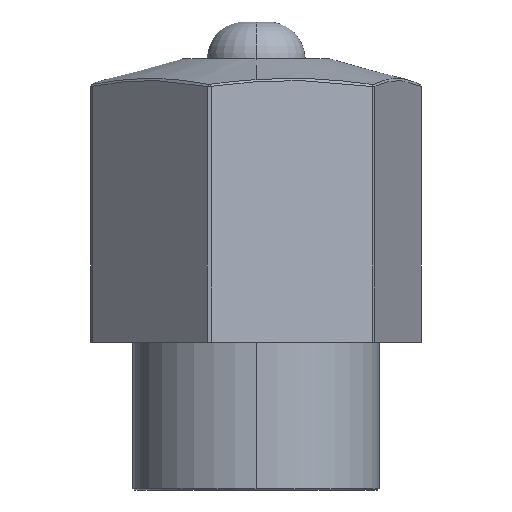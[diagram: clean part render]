
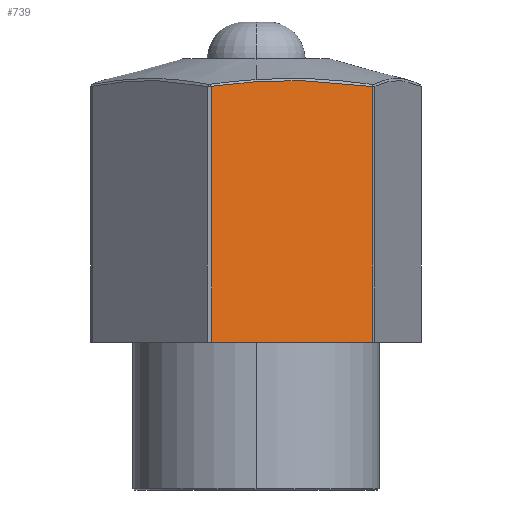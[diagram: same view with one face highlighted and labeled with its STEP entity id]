
A CAD part, left-side view. The second image highlights one B-rep face of the part: STEP entity #739.
In plain terms, the highlighted planar face has unit normal (-0.971, -0.238, 0).
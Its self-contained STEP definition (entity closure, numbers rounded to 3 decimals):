
#29 = ORIENTED_EDGE ( 'NONE', *, *, #1357, .T. ) ;
#35 = CARTESIAN_POINT ( 'NONE',  ( -12.121, -0.952, 33.208 ) ) ;
#46 = CARTESIAN_POINT ( 'NONE',  ( -12.272, -0.336, 33.176 ) ) ;
#49 = CARTESIAN_POINT ( 'NONE',  ( -13.238, 3.61, 32.785 ) ) ;
#58 = CARTESIAN_POINT ( 'NONE',  ( -12.322, -0.132, 33.164 ) ) ;
#70 = CARTESIAN_POINT ( 'NONE',  ( -12.473, 0.483, 33.12 ) ) ;
#110 = CARTESIAN_POINT ( 'NONE',  ( -12.806, 1.844, 32.997 ) ) ;
#123 = CARTESIAN_POINT ( 'NONE',  ( -12.573, 0.891, 33.087 ) ) ;
#224 = EDGE_CURVE ( 'NONE', #396, #1177, #1421, .T. ) ;
#230 = CARTESIAN_POINT ( 'NONE',  ( -11.87, -1.978, 33.242 ) ) ;
#256 = CARTESIAN_POINT ( 'NONE',  ( -12.172, -0.746, 33.198 ) ) ;
#361 = CARTESIAN_POINT ( 'NONE',  ( -10.032, -9.486, 12. ) ) ;
#367 = LINE ( 'NONE', #750, #1483 ) ;
#390 = CARTESIAN_POINT ( 'NONE',  ( -10.165, -8.941, 32.834 ) ) ;
#396 = VERTEX_POINT ( 'NONE', #692 ) ;
#399 = ORIENTED_EDGE ( 'NONE', *, *, #224, .T. ) ;
#402 = CARTESIAN_POINT ( 'NONE',  ( -11.803, -2.251, 33.247 ) ) ;
#413 = CARTESIAN_POINT ( 'NONE',  ( -11.668, -2.802, 33.251 ) ) ;
#427 = CARTESIAN_POINT ( 'NONE',  ( -10.198, -8.806, 32.852 ) ) ;
#429 = DIRECTION ( 'NONE',  ( -0.238, 0.971, 0. ) ) ;
#437 = CARTESIAN_POINT ( 'NONE',  ( -11.568, -3.213, 33.25 ) ) ;
#483 = DIRECTION ( 'NONE',  ( 0., 0., -1. ) ) ;
#559 = DIRECTION ( 'NONE',  ( 0., 0., 1. ) ) ;
#572 = CARTESIAN_POINT ( 'NONE',  ( -10.066, -9.349, 32.781 ) ) ;
#586 = CARTESIAN_POINT ( 'NONE',  ( -11.366, -4.038, 33.235 ) ) ;
#597 = CARTESIAN_POINT ( 'NONE',  ( -10.997, -5.543, 33.166 ) ) ;
#610 = CARTESIAN_POINT ( 'NONE',  ( -11.904, -1.842, 33.239 ) ) ;
#692 = CARTESIAN_POINT ( 'NONE',  ( -13.238, 3.61, 12. ) ) ;
#733 = VERTEX_POINT ( 'NONE', #49 ) ;
#739 = ADVANCED_FACE ( 'NONE', ( #801 ), #1015, .F. ) ;
#750 = CARTESIAN_POINT ( 'NONE',  ( -10.032, -9.486, 35. ) ) ;
#774 = CARTESIAN_POINT ( 'NONE',  ( -10.032, -9.486, 32.762 ) ) ;
#790 = CARTESIAN_POINT ( 'NONE',  ( -10.414, -7.927, 32.956 ) ) ;
#801 = FACE_OUTER_BOUND ( 'NONE', #2088, .T. ) ;
#810 = CARTESIAN_POINT ( 'NONE',  ( -10.514, -7.515, 33.001 ) ) ;
#822 = CARTESIAN_POINT ( 'NONE',  ( -12.781, 1.742, 33.007 ) ) ;
#894 = B_SPLINE_CURVE_WITH_KNOTS ( 'NONE', 3,
 ( #774, #572, #2255, #390, #427, #2093, #1913, #1928, #953, #2105, #790, #2071, #810, #973, #1150, #1535, #1172, #1750, #1525, #1317, #2282, #1512, #1139, #1903, #597, #984, #1546, #1340, #2291, #1365, #586, #1329, #437, #413, #2082, #1184, #402, #230, #610, #1740, #1938, #1713, #35, #256, #1350, #1156, #46, #58, #2304, #2119, #996, #70, #1980, #123, #1794, #1229, #1197, #1949, #822, #110, #1579, #1808, #1607, #1991, #1038 ),
 .UNSPECIFIED., .F., .F.,
 ( 4, 1, 2, 2, 1, 2, 2, 1, 2, 2, 1, 2, 2, 2, 2, 2, 2, 2, 2, 2, 2, 2, 2, 1, 2, 2, 1, 2, 2, 1, 2, 2, 1, 1, 2, 2, 4 ),
 ( 0., 0.031, 0.047, 0.062, 0.094, 0.109, 0.125, 0.156, 0.172, 0.187, 0.219, 0.234, 0.25, 0.281, 0.312, 0.344, 0.375, 0.437, 0.5, 0.531, 0.563, 0.594, 0.625, 0.656, 0.672, 0.688, 0.719, 0.734, 0.75, 0.781, 0.797, 0.813, 0.844, 0.859, 0.867, 0.875, 1. ),
 .UNSPECIFIED. ) ;
#902 = CARTESIAN_POINT ( 'NONE',  ( -13.238, 3.61, 35. ) ) ;
#918 = EDGE_CURVE ( 'NONE', #1177, #992, #367, .T. ) ;
#953 = CARTESIAN_POINT ( 'NONE',  ( -10.365, -8.127, 32.934 ) ) ;
#973 = CARTESIAN_POINT ( 'NONE',  ( -10.564, -7.312, 33.021 ) ) ;
#984 = CARTESIAN_POINT ( 'NONE',  ( -11.065, -5.268, 33.182 ) ) ;
#992 = VERTEX_POINT ( 'NONE', #1744 ) ;
#996 = CARTESIAN_POINT ( 'NONE',  ( -12.423, 0.281, 33.135 ) ) ;
#1015 = PLANE ( 'NONE',  #2196 ) ;
#1038 = CARTESIAN_POINT ( 'NONE',  ( -13.238, 3.61, 32.785 ) ) ;
#1127 = VECTOR ( 'NONE', #483, 1000. ) ;
#1139 = CARTESIAN_POINT ( 'NONE',  ( -10.898, -5.95, 33.138 ) ) ;
#1150 = CARTESIAN_POINT ( 'NONE',  ( -10.597, -7.177, 33.034 ) ) ;
#1156 = CARTESIAN_POINT ( 'NONE',  ( -12.222, -0.539, 33.187 ) ) ;
#1172 = CARTESIAN_POINT ( 'NONE',  ( -10.664, -6.904, 33.06 ) ) ;
#1177 = VERTEX_POINT ( 'NONE', #361 ) ;
#1184 = CARTESIAN_POINT ( 'NONE',  ( -11.769, -2.39, 33.249 ) ) ;
#1197 = CARTESIAN_POINT ( 'NONE',  ( -12.673, 1.3, 33.051 ) ) ;
#1229 = CARTESIAN_POINT ( 'NONE',  ( -12.623, 1.099, 33.069 ) ) ;
#1317 = CARTESIAN_POINT ( 'NONE',  ( -10.797, -6.36, 33.107 ) ) ;
#1329 = CARTESIAN_POINT ( 'NONE',  ( -11.5, -3.488, 33.247 ) ) ;
#1340 = CARTESIAN_POINT ( 'NONE',  ( -11.165, -4.858, 33.203 ) ) ;
#1350 = CARTESIAN_POINT ( 'NONE',  ( -12.205, -0.609, 33.191 ) ) ;
#1352 = CARTESIAN_POINT ( 'NONE',  ( -13.303, 3.876, 35. ) ) ;
#1357 = EDGE_CURVE ( 'NONE', #992, #733, #894, .T. ) ;
#1365 = CARTESIAN_POINT ( 'NONE',  ( -11.299, -4.31, 33.226 ) ) ;
#1421 = LINE ( 'NONE', #1810, #1958 ) ;
#1483 = VECTOR ( 'NONE', #559, 1000. ) ;
#1512 = CARTESIAN_POINT ( 'NONE',  ( -10.864, -6.087, 33.128 ) ) ;
#1525 = CARTESIAN_POINT ( 'NONE',  ( -10.764, -6.495, 33.096 ) ) ;
#1535 = CARTESIAN_POINT ( 'NONE',  ( -10.613, -7.111, 33.041 ) ) ;
#1546 = CARTESIAN_POINT ( 'NONE',  ( -11.098, -5.131, 33.19 ) ) ;
#1579 = CARTESIAN_POINT ( 'NONE',  ( -12.823, 1.913, 32.99 ) ) ;
#1607 = CARTESIAN_POINT ( 'NONE',  ( -12.969, 2.509, 32.926 ) ) ;
#1713 = CARTESIAN_POINT ( 'NONE',  ( -12.071, -1.156, 33.217 ) ) ;
#1740 = CARTESIAN_POINT ( 'NONE',  ( -11.971, -1.567, 33.231 ) ) ;
#1744 = CARTESIAN_POINT ( 'NONE',  ( -10.032, -9.486, 32.762 ) ) ;
#1750 = CARTESIAN_POINT ( 'NONE',  ( -10.714, -6.699, 33.079 ) ) ;
#1770 = DIRECTION ( 'NONE',  ( 0.971, 0.238, 0. ) ) ;
#1794 = CARTESIAN_POINT ( 'NONE',  ( -12.606, 1.028, 33.075 ) ) ;
#1800 = ORIENTED_EDGE ( 'NONE', *, *, #918, .T. ) ;
#1808 = CARTESIAN_POINT ( 'NONE',  ( -12.832, 1.949, 32.986 ) ) ;
#1810 = CARTESIAN_POINT ( 'NONE',  ( -13.303, 3.876, 12. ) ) ;
#1827 = EDGE_CURVE ( 'NONE', #733, #396, #1849, .T. ) ;
#1849 = LINE ( 'NONE', #902, #1127 ) ;
#1903 = CARTESIAN_POINT ( 'NONE',  ( -10.964, -5.677, 33.157 ) ) ;
#1913 = CARTESIAN_POINT ( 'NONE',  ( -10.265, -8.535, 32.886 ) ) ;
#1928 = CARTESIAN_POINT ( 'NONE',  ( -10.315, -8.33, 32.91 ) ) ;
#1938 = CARTESIAN_POINT ( 'NONE',  ( -12.005, -1.428, 33.227 ) ) ;
#1949 = CARTESIAN_POINT ( 'NONE',  ( -12.722, 1.503, 33.032 ) ) ;
#1958 = VECTOR ( 'NONE', #2007, 1000. ) ;
#1980 = CARTESIAN_POINT ( 'NONE',  ( -12.522, 0.686, 33.105 ) ) ;
#1991 = CARTESIAN_POINT ( 'NONE',  ( -13.102, 3.052, 32.86 ) ) ;
#2007 = DIRECTION ( 'NONE',  ( 0.238, -0.971, 0. ) ) ;
#2071 = CARTESIAN_POINT ( 'NONE',  ( -10.464, -7.721, 32.979 ) ) ;
#2082 = CARTESIAN_POINT ( 'NONE',  ( -11.702, -2.665, 33.251 ) ) ;
#2088 = EDGE_LOOP ( 'NONE', ( #29, #2329, #399, #1800 ) ) ;
#2093 = CARTESIAN_POINT ( 'NONE',  ( -10.214, -8.741, 32.86 ) ) ;
#2105 = CARTESIAN_POINT ( 'NONE',  ( -10.398, -7.992, 32.949 ) ) ;
#2119 = CARTESIAN_POINT ( 'NONE',  ( -12.406, 0.21, 33.14 ) ) ;
#2196 = AXIS2_PLACEMENT_3D ( 'NONE', #1352, #1770, #429 ) ;
#2255 = CARTESIAN_POINT ( 'NONE',  ( -10.116, -9.144, 32.808 ) ) ;
#2282 = CARTESIAN_POINT ( 'NONE',  ( -10.814, -6.293, 33.112 ) ) ;
#2291 = CARTESIAN_POINT ( 'NONE',  ( -11.198, -4.723, 33.21 ) ) ;
#2304 = CARTESIAN_POINT ( 'NONE',  ( -12.372, 0.073, 33.15 ) ) ;
#2329 = ORIENTED_EDGE ( 'NONE', *, *, #1827, .T. ) ;
